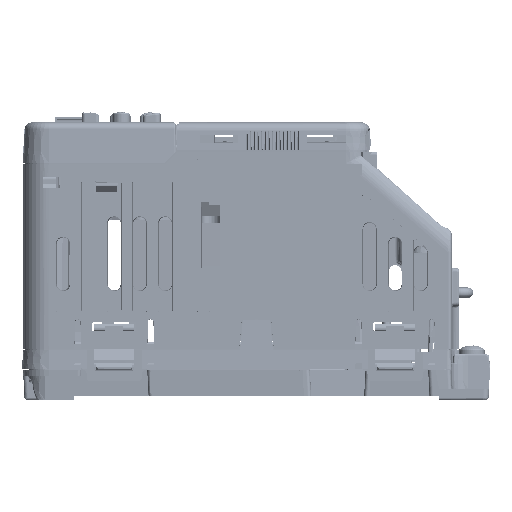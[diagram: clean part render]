
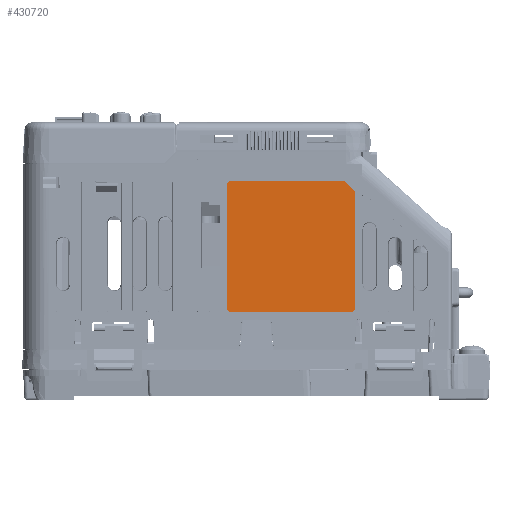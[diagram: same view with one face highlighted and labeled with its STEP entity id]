
A CAD part, left-side view. The second image highlights one B-rep face of the part: STEP entity #430720.
In plain terms, the highlighted planar face has unit normal (-1, 0, 0) as drawn and (0, 0, 1) by its records, which use the part's own axes.
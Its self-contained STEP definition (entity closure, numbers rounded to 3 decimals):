
#430563=DIRECTION('',(-1.,0.,0.));
#430564=VECTOR('',#430563,32.);
#430565=CARTESIAN_POINT('',(33.,-35.,0.));
#430566=LINE('',#430565,#430564);
#430567=CARTESIAN_POINT('',(1.,-34.,0.));
#430568=DIRECTION('',(0.,0.,1.));
#430569=DIRECTION('',(-1.,0.,0.));
#430570=AXIS2_PLACEMENT_3D('',#430567,#430568,#430569);
#430572=DIRECTION('',(0.,1.,0.));
#430573=VECTOR('',#430572,33.);
#430574=CARTESIAN_POINT('',(0.,-34.,0.));
#430575=LINE('',#430574,#430573);
#430576=CARTESIAN_POINT('',(1.,-1.,0.));
#430577=DIRECTION('',(0.,0.,1.));
#430578=DIRECTION('',(0.,1.,0.));
#430579=AXIS2_PLACEMENT_3D('',#430576,#430577,#430578);
#430581=DIRECTION('',(1.,0.,0.));
#430582=VECTOR('',#430581,34.);
#430583=CARTESIAN_POINT('',(1.,0.,0.));
#430584=LINE('',#430583,#430582);
#430585=CARTESIAN_POINT('',(35.,-1.,0.));
#430586=DIRECTION('',(0.,0.,1.));
#430587=DIRECTION('',(1.,0.,0.));
#430588=AXIS2_PLACEMENT_3D('',#430585,#430586,#430587);
#430590=DIRECTION('',(0.,-1.,0.));
#430591=VECTOR('',#430590,31.);
#430592=CARTESIAN_POINT('',(36.,-1.,0.));
#430593=LINE('',#430592,#430591);
#430594=DIRECTION('',(0.707,0.707,0.));
#430595=VECTOR('',#430594,4.243);
#430596=CARTESIAN_POINT('',(33.,-35.,0.));
#430597=LINE('',#430596,#430595);
#430665=CARTESIAN_POINT('',(1.,0.,0.));
#430666=CARTESIAN_POINT('',(0.,-1.,0.));
#430667=VERTEX_POINT('',#430665);
#430668=VERTEX_POINT('',#430666);
#430673=CARTESIAN_POINT('',(36.,-1.,0.));
#430674=CARTESIAN_POINT('',(35.,0.,0.));
#430675=VERTEX_POINT('',#430673);
#430676=VERTEX_POINT('',#430674);
#430681=CARTESIAN_POINT('',(0.,-34.,0.));
#430682=VERTEX_POINT('',#430681);
#430685=CARTESIAN_POINT('',(33.,-35.,0.));
#430686=CARTESIAN_POINT('',(1.,-35.,0.));
#430687=VERTEX_POINT('',#430685);
#430688=VERTEX_POINT('',#430686);
#430693=CARTESIAN_POINT('',(36.,-32.,0.));
#430694=VERTEX_POINT('',#430693);
#430697=CARTESIAN_POINT('',(0.,0.,0.));
#430698=DIRECTION('',(0.,0.,1.));
#430699=DIRECTION('',(1.,0.,0.));
#430700=AXIS2_PLACEMENT_3D('',#430697,#430698,#430699);
#430701=PLANE('',#430700);
#430703=ORIENTED_EDGE('',*,*,#430702,.T.);
#430705=ORIENTED_EDGE('',*,*,#430704,.F.);
#430707=ORIENTED_EDGE('',*,*,#430706,.T.);
#430709=ORIENTED_EDGE('',*,*,#430708,.F.);
#430711=ORIENTED_EDGE('',*,*,#430710,.T.);
#430713=ORIENTED_EDGE('',*,*,#430712,.F.);
#430715=ORIENTED_EDGE('',*,*,#430714,.T.);
#430717=ORIENTED_EDGE('',*,*,#430716,.F.);
#430718=EDGE_LOOP('',(#430703,#430705,#430707,#430709,#430711,#430713,#430715,
#430717));
#430719=FACE_OUTER_BOUND('',#430718,.F.);
#430720=ADVANCED_FACE('',(#430719),#430701,.T.);
#430571=CIRCLE('',#430570,1.);
#430580=CIRCLE('',#430579,1.);
#430589=CIRCLE('',#430588,1.);
#430702=EDGE_CURVE('',#430687,#430688,#430566,.T.);
#430704=EDGE_CURVE('',#430682,#430688,#430571,.T.);
#430706=EDGE_CURVE('',#430682,#430668,#430575,.T.);
#430708=EDGE_CURVE('',#430667,#430668,#430580,.T.);
#430710=EDGE_CURVE('',#430667,#430676,#430584,.T.);
#430712=EDGE_CURVE('',#430675,#430676,#430589,.T.);
#430714=EDGE_CURVE('',#430675,#430694,#430593,.T.);
#430716=EDGE_CURVE('',#430687,#430694,#430597,.T.);
